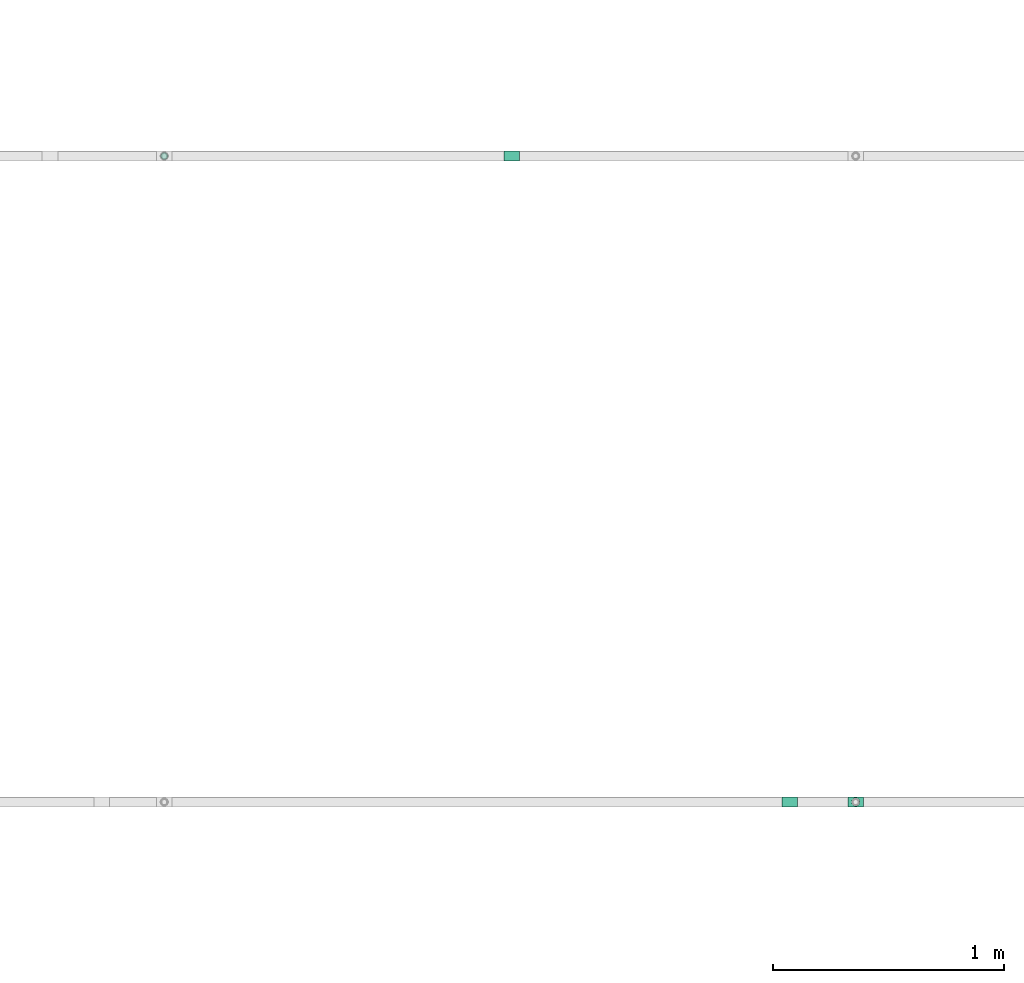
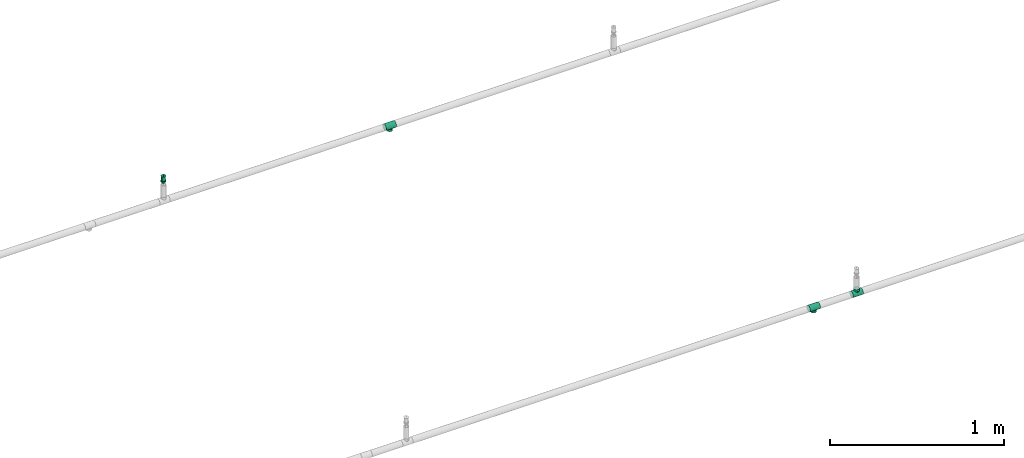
# One storey, part 61 of 94: 3 flow fittings, 1 flow terminal.
"""IFC2X3 building model written with IfcOpenShell, lengths in millimetres."""

from ifc_helpers import new_model, entity, si_unit, converted_unit, derived_unit, direction, frame, origin_with_axes, place, context, subcontext, project, spatial, open_shell, surface_model, source, transform, mapped, type_object, element, save


model = new_model("IFC2X3")

# Units and contexts
model_context = context("Model", 3, precision=0.01, world=frame((0.0, 4.29681676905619e-09, 0.0)), true_north=direction((4.01073788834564e-13, 1.0)))
plan_context = context("Plan", 3, precision=0.01, world=frame((0.0, 4.29681676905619e-09, 0.0)), true_north=direction((4.01073788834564e-13, 1.0)))
body_context = subcontext(model_context, "Body", "Model", "MODEL_VIEW")
ifc_project = project(units=[converted_unit("PLANEANGLEUNIT", "DEGREE", entity("IfcPositiveLengthMeasure", 0.0174532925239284), si_unit("PLANEANGLEUNIT", "RADIAN"), dimensions=[0, 0, 0, 0, 0, 0, 0]), si_unit("AREAUNIT", "SQUARE_METRE"), si_unit("LENGTHUNIT", "METRE", prefix="MILLI"), si_unit("MASSUNIT", "GRAM", prefix="KILO"), si_unit("POWERUNIT", "WATT"), si_unit("PRESSUREUNIT", "PASCAL"), si_unit("FORCEUNIT", "NEWTON", prefix="KILO"), si_unit("ELECTRICCURRENTUNIT", "AMPERE"), si_unit("THERMODYNAMICTEMPERATUREUNIT", "DEGREE_CELSIUS"), si_unit("TIMEUNIT", "SECOND"), si_unit("VOLUMEUNIT", "CUBIC_METRE"), derived_unit("LINEARVELOCITYUNIT", [(si_unit("LENGTHUNIT", "METRE"), 1), (si_unit("TIMEUNIT", "SECOND"), -1)]), derived_unit("VOLUMETRICFLOWRATEUNIT", [(si_unit("VOLUMEUNIT", "CUBIC_METRE"), 1), (si_unit("TIMEUNIT", "SECOND"), -1)]), derived_unit("THERMALTRANSMITTANCEUNIT", [(si_unit("POWERUNIT", "WATT"), 1), (si_unit("THERMODYNAMICTEMPERATUREUNIT", "KELVIN"), -1), (si_unit("AREAUNIT", "SQUARE_METRE"), -1)])], contexts=[model_context, plan_context])

# Site, building, storey
site_placement = place(None, frame((0.0, -4.29681676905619e-09, 0.0), z_axis=(0.0, 0.0, 1.0), x_axis=(1.0, 0.0, 0.0)))
site = spatial("IfcSite", under=ifc_project, at=site_placement, CompositionType="ELEMENT")
building_placement = place(site_placement, frame((0.0, 4.29681676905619e-09, 0.0), z_axis=(0.0, 0.0, 1.0), x_axis=(1.0, 0.0, 0.0)))
building = spatial("IfcBuilding", under=site, at=building_placement, Name="mc-building", CompositionType="ELEMENT")
storey_placement = place(building_placement, frame((0.0, 0.0, 200300.0), z_axis=(0.0, 0.0, 1.0), x_axis=(1.0, 0.0, 0.0)))
storey = spatial("IfcBuildingStorey", under=building, at=storey_placement, Name="Nivå C", CompositionType="ELEMENT", Elevation=200300.0)

# Flow fittings
pipe_fitting_type = type_object("IfcPipeFittingType", Name="magi_pipe_fe_tee_centric_90_NOR", PredefinedType="JUNCTION")
shared_shape_1 = source(origin_with_axes(), body_context, "Body", "SurfaceModel", [
    surface_model("IfcShellBasedSurfaceModel", [(-33.8, 0.0, -21.2), (-33.8, -5.48696, -20.47763), (-33.8, 5.48696, -20.47763), (-33.8, 10.6, -18.35974), (-33.8, 14.99066, -14.99066), (-33.8, -20.47763, 5.48696), (-33.8, 18.35974, -10.6), (-33.8, 10.6, 18.35974), (-33.8, -14.99066, -14.99066), (-33.8, -18.35974, -10.6), (-33.8, -10.6, -18.35974), (-33.8, -20.47763, -5.48696), (-33.8, -21.2, 0.0), (-33.8, 18.35974, 10.6), (-33.8, 20.47763, -5.48696), (-33.8, 20.47763, 5.48696), (-33.8, 21.2, 0.0), (-33.8, 14.99066, 14.99066), (-33.8, 5.48696, 20.47763), (-33.8, 0.0, 21.2), (-33.8, -18.35974, 10.6), (-33.8, -14.99066, 14.99066), (-33.8, -10.6, 18.35974), (-33.8, -5.48696, 20.47763), (33.8, 5.48696, -20.47763), (33.8, -5.48696, -20.47763), (33.8, 0.0, -21.2), (33.8, 14.99066, -14.99066), (33.8, 10.6, -18.35974), (33.8, 18.35974, -10.6), (33.8, 20.47763, -5.48696), (33.8, -21.2, 0.0), (33.8, -10.6, -18.35974), (33.8, -18.35974, -10.6), (33.8, -14.99066, -14.99066), (33.8, -20.47763, -5.48696), (33.8, -20.47763, 5.48696), (33.8, 21.2, 0.0), (33.8, 20.47763, 5.48696), (33.8, 18.35974, 10.6), (33.8, 10.6, 18.35974), (33.8, 14.99066, 14.99066), (33.8, 0.0, 21.2), (33.8, 5.48696, 20.47763), (33.8, -14.99066, 14.99066), (33.8, -18.35974, 10.6), (33.8, -10.6, 18.35974), (33.8, -5.48696, 20.47763), (16.9, -21.2, 0.0), (15.78624, -20.32327, 6.03364), (12.81343, -18.11115, 11.01935), (8.52479, -15.37862, 14.59239), (3.07939, -13.16482, 16.61708), (-16.9, -21.2, 0.0), (-15.78686, -20.32375, 6.032), (-8.52604, -15.37932, 14.59166), (-3.0848, -13.16609, 16.61608), (-12.81602, -18.11299, 11.01634), (3.07939, -13.16482, -16.61708), (12.81343, -18.11115, -11.01935), (8.52479, -15.37862, -14.59239), (15.78624, -20.32327, -6.03364), (-3.0848, -13.16609, -16.61608), (-8.52604, -15.37932, -14.59166), (-12.81602, -18.11299, -11.01634), (-15.78686, -20.32375, -6.032), (4.37404, -31.8, -16.32415), (-16.9, -31.8, 0.0), (0.0, -31.8, -16.9), (14.63583, -31.8, -8.45), (8.45, -31.8, -14.63583), (16.32415, -31.8, -4.37404), (11.9501, -31.8, -11.9501), (-11.9501, -31.8, -11.9501), (-8.45, -31.8, -14.63583), (-4.37404, -31.8, -16.32415), (-14.63583, -31.8, -8.45), (-16.32415, -31.8, -4.37404), (16.9, -31.8, 0.0), (8.45, -31.8, 14.63583), (16.32415, -31.8, 4.37404), (14.63583, -31.8, 8.45), (-8.45, -31.8, 14.63583), (11.9501, -31.8, 11.9501), (4.37404, -31.8, 16.32415), (-16.32415, -31.8, 4.37404), (-11.9501, -31.8, 11.9501), (-14.63583, -31.8, 8.45), (0.0, -31.8, 16.9), (-4.37404, -31.8, 16.32415), (-16.34343, -20.76188, 3.016), (16.34312, -20.76163, 3.01682), (-0.00271, -13.16546, 16.61658), (16.34312, -20.76163, -3.01682), (-0.00271, -13.16546, -16.61658), (-16.34343, -20.76188, -3.016)], [open_shell([[[0, 1, 2]], [[3, 2, 4]], [[5, 2, 1]], [[4, 2, 6]], [[6, 2, 7]], [[8, 9, 10]], [[1, 10, 9]], [[9, 11, 1]], [[12, 1, 11]], [[5, 1, 12]], [[13, 14, 6]], [[13, 15, 16]], [[6, 7, 13]], [[5, 7, 2]], [[17, 13, 7]], [[18, 7, 19]], [[20, 21, 5]], [[22, 5, 21]], [[23, 19, 22]], [[7, 5, 22]], [[22, 19, 7]], [[16, 14, 13]], [[24, 25, 26]], [[27, 24, 28]], [[29, 30, 24]], [[29, 24, 27]], [[31, 24, 30]], [[32, 33, 34]], [[33, 32, 25]], [[33, 31, 35]], [[31, 33, 25]], [[25, 24, 31]], [[30, 36, 31]], [[37, 38, 39]], [[37, 39, 40]], [[37, 40, 36]], [[40, 39, 41]], [[42, 40, 43]], [[36, 44, 45]], [[44, 36, 46]], [[46, 42, 47]], [[46, 36, 40]], [[40, 42, 46]], [[37, 36, 30]], [[31, 36, 48]], [[49, 48, 36]], [[36, 45, 49]], [[45, 44, 50]], [[51, 50, 44]], [[52, 51, 44]], [[44, 46, 52]], [[45, 50, 49]], [[53, 54, 5]], [[5, 12, 53]], [[54, 20, 5]], [[55, 56, 21]], [[20, 57, 21]], [[57, 20, 54]], [[21, 57, 55]], [[56, 22, 21]], [[52, 22, 56]], [[19, 47, 42]], [[23, 46, 47]], [[18, 42, 43]], [[39, 38, 15]], [[17, 40, 41]], [[13, 41, 39]], [[43, 40, 7]], [[16, 38, 37]], [[22, 46, 23]], [[23, 47, 19]], [[18, 19, 42]], [[43, 7, 18]], [[7, 40, 17]], [[13, 17, 41]], [[15, 13, 39]], [[38, 16, 15]], [[46, 22, 52]], [[6, 30, 29]], [[14, 37, 30]], [[4, 29, 27]], [[26, 25, 1]], [[2, 28, 24]], [[0, 24, 26]], [[27, 28, 3]], [[10, 25, 32]], [[16, 37, 14]], [[14, 30, 6]], [[4, 6, 29]], [[27, 3, 4]], [[3, 28, 2]], [[0, 2, 24]], [[1, 0, 26]], [[25, 10, 1]], [[32, 58, 10]], [[34, 59, 60]], [[59, 34, 33]], [[60, 58, 34]], [[34, 58, 32]], [[35, 31, 48]], [[35, 61, 33]], [[61, 35, 48]], [[33, 61, 59]], [[62, 63, 8]], [[8, 64, 9]], [[64, 8, 63]], [[62, 8, 10]], [[65, 53, 11]], [[65, 11, 9]], [[11, 53, 12]], [[65, 9, 64]], [[58, 62, 10]], [[66, 67, 68]], [[69, 66, 70]], [[69, 71, 66]], [[69, 70, 72]], [[67, 66, 71]], [[68, 73, 74]], [[74, 75, 68]], [[76, 67, 77]], [[73, 68, 76]], [[67, 76, 68]], [[71, 78, 67]], [[79, 78, 80]], [[79, 80, 81]], [[82, 67, 79]], [[79, 81, 83]], [[82, 79, 84]], [[85, 86, 87]], [[86, 85, 82]], [[82, 88, 89]], [[85, 67, 82]], [[84, 88, 82]], [[79, 67, 78]], [[85, 90, 67]], [[57, 87, 86]], [[85, 87, 54]], [[86, 82, 55]], [[85, 54, 90]], [[90, 53, 67]], [[54, 87, 57]], [[91, 49, 80]], [[55, 89, 56]], [[55, 57, 86]], [[88, 52, 92]], [[55, 82, 89]], [[52, 88, 84]], [[79, 51, 84]], [[50, 83, 81]], [[83, 51, 79]], [[81, 80, 49]], [[83, 50, 51]], [[51, 52, 84]], [[78, 91, 80]], [[49, 50, 81]], [[91, 78, 48]], [[88, 56, 89]], [[92, 56, 88]], [[71, 93, 78]], [[59, 69, 72]], [[71, 69, 61]], [[72, 70, 60]], [[93, 48, 78]], [[61, 69, 59]], [[60, 66, 58]], [[60, 59, 72]], [[68, 62, 94]], [[60, 70, 66]], [[95, 67, 53]], [[95, 65, 77]], [[71, 61, 93]], [[75, 62, 68]], [[65, 76, 77]], [[73, 76, 64]], [[68, 58, 66]], [[75, 63, 62]], [[63, 75, 74]], [[74, 73, 63]], [[63, 73, 64]], [[64, 76, 65]], [[67, 95, 77]], [[94, 58, 68]]])]),
])
for number, where, z_axis, x_axis, name in (
    (1, (526007.26147, 416298.62756, 2850.0), (0.0, 1.0, 0.0), (-1.0, 0.0, 0.0), "magi_pipe_fe_tee_centric_90_NOR"),
    (2, (527497.26879, 413500.1625, 2850.0), (0.0, -1.0, 0.0), (-1.0, 0.0, 0.0), "magi_pipe_fe_tee_centric_90_NOR"),
    (3, (527211.48953, 413500.1625, 2850.0), (0.0, 1.0, 0.0), (-1.0, 0.0, 0.0), "magi_pipe_fe_tee_centric_90_NOR"),
):
    element("IfcFlowFitting", number, at=place(storey_placement, frame(where, z_axis=z_axis, x_axis=x_axis)), inside=storey, type_object=pipe_fitting_type, Name=name, context=body_context, shape_type="MappedRepresentation", body=[
        mapped(shared_shape_1, transform((0.0, 0.0, 0.0), scale=1.0)),
    ])

# Flow terminal
fire_suppression_terminal_type = type_object("IfcFireSuppressionTerminalType", Name="68DGR-STD-STÅENDE", PredefinedType="NOTDEFINED")
shared_shape_2 = source(origin_with_axes(), body_context, "Body", "SurfaceModel", [
    surface_model("IfcShellBasedSurfaceModel", [(12.55704, 3.36465, 21.14766), (13.0, 0.0, 21.14766), (12.55704, -3.36465, 21.14766), (-12.55704, -3.36465, 21.14766), (-11.25833, -6.5, 21.14766), (-11.25833, -6.5, 51.0), (3.36465, -12.55704, 51.0), (3.36465, -12.55704, 21.14766), (6.5, -11.25833, 21.14766), (9.19239, -9.19239, 21.14766), (11.25833, -6.5, 21.14766), (9.19239, -9.19239, 51.0), (6.5, -11.25833, 51.0), (11.25833, -6.5, 51.0), (12.55704, -3.36465, 51.0), (13.0, 0.0, 51.0), (9.19239, 9.19239, 51.0), (11.25833, 6.5, 21.14766), (9.19239, 9.19239, 21.14766), (11.25833, 6.5, 51.0), (12.55704, 3.36465, 51.0), (6.5, 11.25833, 51.0), (6.5, 11.25833, 21.14766), (3.36465, 12.55704, 21.14766), (3.36465, 12.55704, 51.0), (-11.25833, 6.5, 51.0), (-11.25833, 6.5, 21.14766), (-12.55704, 3.36465, 21.14766), (0.0, -2.5, 51.0), (-2.5, 0.0, 51.0), (0.0, 2.5, 51.0), (2.5, 0.0, 51.0), (11.31371, 11.31371, 53.0), (-11.31371, 11.31371, 53.0), (-11.31371, -11.31371, 53.0), (11.31371, -11.31371, 53.0), (1.62635, 1.62635, 51.0), (2.16506, 1.25, 51.0), (1.99186, 1.15, 51.0), (-1.76777, 1.76777, 51.0), (-1.25, 2.16506, 51.0), (-1.62635, 1.62635, 51.0), (1.99186, -1.15, 51.0), (2.16506, -1.25, 51.0), (1.62635, -1.62635, 51.0), (-1.62635, -1.62635, 51.0), (-1.25, -2.16506, 51.0), (-1.76777, -1.76777, 51.0), (0.0, 7.3, 0.0), (1.94114, 7.24444, 0.0), (1.88938, 7.05126, 0.0), (5.16188, 5.16188, 0.0), (6.49519, 3.75, 0.0), (6.32199, 3.65, 0.0), (-5.3033, 5.3033, 0.0), (-3.75, 6.49519, 0.0), (-5.16188, 5.16188, 0.0), (6.32199, -3.65, 0.0), (6.49519, -3.75, 0.0), (5.16188, -5.16188, 0.0), (1.88938, -7.05126, 0.0), (1.94114, -7.24444, 0.0), (0.0, -7.3, 0.0), (-5.16188, -5.16188, 0.0), (-3.75, -6.49519, 0.0), (-5.3033, -5.3033, 0.0), (-3.36465, 12.55704, 51.0), (-6.5, 11.25833, 51.0), (0.0, 13.0, 51.0), (-9.19239, 9.19239, 51.0), (0.0, -13.0, 51.0), (-9.19239, -9.19239, 51.0), (-12.55704, -3.36465, 51.0), (-6.5, -11.25833, 51.0), (-3.36465, -12.55704, 51.0), (-7.5, 0.0, -0.1), (-7.24444, 1.94114, 0.1), (-7.24444, 1.94114, -0.1), (-6.49519, 3.75, 0.1), (-6.49519, 3.75, -0.1), (-3.75, 6.49519, -0.1), (-5.3033, 5.3033, -0.1), (-3.75, 6.49519, 0.1), (-5.3033, 5.3033, 0.1), (-1.94114, 7.24444, -0.1), (-1.94114, 7.24444, 0.1), (-7.5, 0.0, 0.1), (0.0, 7.5, 0.1), (0.0, 7.5, -0.1), (1.94114, 7.24444, 0.1), (1.94114, 7.24444, -0.1), (3.75, 6.49519, 0.1), (3.75, 6.49519, -0.1), (6.49519, 3.75, -0.1), (5.3033, 5.3033, -0.1), (6.49519, 3.75, 0.1), (5.3033, 5.3033, 0.1), (7.24444, 1.94114, -0.1), (7.24444, 1.94114, 0.1), (7.5, 0.0, 0.1), (7.5, 0.0, -0.1), (-7.24444, -1.94114, 0.1), (7.24444, -1.94114, 0.1), (5.3033, -5.3033, 0.1), (6.49519, -3.75, 0.1), (-6.49519, -3.75, 0.1), (0.0, -7.5, 0.1), (1.94114, -7.24444, 0.1), (3.75, -6.49519, 0.1), (-3.75, -6.49519, 0.1), (-1.94114, -7.24444, 0.1), (-5.3033, -5.3033, 0.1), (0.0, -7.5, -0.1), (-6.49519, -3.75, -0.1), (1.94114, -7.24444, -0.1), (3.75, -6.49519, -0.1), (5.3033, -5.3033, -0.1), (7.24444, -1.94114, -0.1), (6.49519, -3.75, -0.1), (-3.75, -6.49519, -0.1), (-5.3033, -5.3033, -0.1), (-1.94114, -7.24444, -0.1), (-7.24444, -1.94114, -0.1), (16.0, 0.0, 53.0), (0.0, -16.0, 53.0), (-16.0, 0.0, 53.0), (0.0, 16.0, 53.0), (0.64705, 2.41481, 57.0), (0.0, 2.5, 57.0), (1.25, 2.16506, 57.0), (-2.5, 0.0, 57.0), (1.76777, 1.76777, 57.0), (2.41481, 0.64705, 57.0), (2.16506, 1.25, 57.0), (-0.64705, 2.41481, 57.0), (-1.25, 2.16506, 57.0), (-1.76777, 1.76777, 57.0), (-2.16506, 1.25, 57.0), (-2.41481, 0.64705, 57.0), (2.5, 0.0, 57.0), (1.76777, -1.76777, 57.0), (2.16506, -1.25, 57.0), (2.41481, -0.64705, 57.0), (-2.41481, -0.64705, 57.0), (0.64705, -2.41481, 57.0), (1.25, -2.16506, 57.0), (0.0, -2.5, 57.0), (-1.76777, -1.76777, 57.0), (-2.16506, -1.25, 57.0), (-1.25, -2.16506, 57.0), (-0.64705, -2.41481, 57.0), (1.15, -1.99186, 51.0), (1.76777, -1.76777, 51.0), (1.25, -2.16506, 51.0), (0.59528, -2.22163, 51.0), (0.0, -2.3, 51.0), (0.64705, -2.41481, 51.0), (2.22163, -0.59528, 51.0), (2.3, 0.0, 51.0), (2.41481, -0.64705, 51.0), (-0.64705, -2.41481, 51.0), (-0.59528, -2.22163, 51.0), (-1.15, -1.99186, 51.0), (-2.16506, -1.25, 51.0), (-1.99186, -1.15, 51.0), (-2.22163, -0.59528, 51.0), (-2.3, 0.0, 51.0), (-2.41481, -0.64705, 51.0), (2.22163, 0.59528, 51.0), (2.41481, 0.64705, 51.0), (1.76777, 1.76777, 51.0), (1.15, 1.99186, 51.0), (1.25, 2.16506, 51.0), (0.59528, 2.22163, 51.0), (0.0, 2.3, 51.0), (0.64705, 2.41481, 51.0), (-1.99186, 1.15, 51.0), (-2.16506, 1.25, 51.0), (-2.41481, 0.64705, 51.0), (-2.22163, 0.59528, 51.0), (-0.64705, 2.41481, 51.0), (-0.59528, 2.22163, 51.0), (-1.15, 1.99186, 51.0), (-2.22163, 0.59528, 56.8), (-1.99186, 1.15, 56.8), (-1.15, 1.99186, 56.8), (-1.62635, 1.62635, 56.8), (-0.59528, 2.22163, 56.8), (-2.3, 0.0, 56.8), (0.0, 2.3, 56.8), (0.59528, 2.22163, 56.8), (1.15, 1.99186, 56.8), (1.99186, 1.15, 56.8), (1.62635, 1.62635, 56.8), (2.22163, 0.59528, 56.8), (2.3, 0.0, 56.8), (2.22163, -0.59528, 56.8), (1.99186, -1.15, 56.8), (1.62635, -1.62635, 56.8), (1.15, -1.99186, 56.8), (0.59528, -2.22163, 56.8), (0.0, -2.3, 56.8), (-1.99186, -1.15, 56.8), (-2.22163, -0.59528, 56.8), (-1.62635, -1.62635, 56.8), (-0.59528, -2.22163, 56.8), (-1.15, -1.99186, 56.8), (8.0, -13.85641, 13.0), (4.1411, -15.45481, 13.0), (0.0, -16.0, 13.0), (-4.1411, -15.45481, 13.0), (15.45481, -4.1411, 13.0), (13.85641, -8.0, 13.0), (11.31371, -11.31371, 13.0), (-16.0, 0.0, 13.0), (-8.0, -13.85641, 13.0), (-11.31371, -11.31371, 13.0), (-13.85641, -8.0, 13.0), (-15.45481, -4.1411, 13.0), (15.45481, 4.1411, 13.0), (4.1411, 15.45481, 13.0), (13.85641, 8.0, 13.0), (8.0, 13.85641, 13.0), (11.31371, 11.31371, 13.0), (-15.45481, 4.1411, 13.0), (-11.31371, 11.31371, 13.0), (-8.0, 13.85641, 13.0), (-13.85641, 8.0, 13.0), (-4.1411, 15.45481, 13.0), (0.0, 16.0, 13.0), (16.0, 0.0, 13.0), (7.05126, 1.88938, 12.8), (1.88938, 7.05126, 12.8), (3.65, 6.32199, 12.8), (6.32199, 3.65, 12.8), (5.16188, 5.16188, 12.8), (7.3, 0.0, 12.8), (0.0, 7.3, 12.8), (-3.65, 6.32199, 12.8), (-1.88938, 7.05126, 12.8), (-5.16188, 5.16188, 12.8), (-7.05126, 1.88938, 12.8), (-6.32199, 3.65, 12.8), (7.05126, -1.88938, 12.8), (0.0, -7.3, 12.8), (6.32199, -3.65, 12.8), (3.65, -6.32199, 12.8), (5.16188, -5.16188, 12.8), (1.88938, -7.05126, 12.8), (-7.3, 0.0, 12.8), (-6.32199, -3.65, 12.8), (-7.05126, -1.88938, 12.8), (-1.88938, -7.05126, 12.8), (-5.16188, -5.16188, 12.8), (-3.65, -6.32199, 12.8), (-7.05126, 1.88938, 0.0), (-7.3, 0.0, 0.0), (-6.32199, 3.65, 0.0), (-3.65, 6.32199, 0.0), (-1.88938, 7.05126, 0.0), (3.65, 6.32199, 0.0), (7.05126, 1.88938, 0.0), (7.3, 0.0, 0.0), (3.75, 6.49519, 13.0), (1.94114, 7.24444, 13.0), (7.5, 0.0, 13.0), (5.3033, 5.3033, 13.0), (7.24444, 1.94114, 13.0), (6.49519, 3.75, 13.0), (-5.3033, 5.3033, 13.0), (-7.24444, -1.94114, 13.0), (-1.94114, 7.24444, 13.0), (-3.75, 6.49519, 13.0), (0.0, 7.5, 13.0), (-6.49519, 3.75, 13.0), (-7.24444, 1.94114, 13.0), (7.24444, -1.94114, 13.0), (5.3033, -5.3033, 13.0), (6.49519, -3.75, 13.0), (-6.49519, -3.75, 13.0), (0.0, -7.5, 13.0), (1.94114, -7.24444, 13.0), (3.75, -6.49519, 13.0), (-7.5, 0.0, 13.0), (-3.75, -6.49519, 13.0), (-1.94114, -7.24444, 13.0), (-5.3033, -5.3033, 13.0), (3.65, -6.32199, 0.0), (5.3033, -5.3033, 0.0), (3.75, -6.49519, 0.0), (0.0, -7.5, 0.0), (7.05126, -1.88938, 0.0), (7.24444, -1.94114, 0.0), (7.5, 0.0, 0.0), (-1.94114, -7.24444, 0.0), (-1.88938, -7.05126, 0.0), (-3.65, -6.32199, 0.0), (-6.49519, -3.75, 0.0), (-6.32199, -3.65, 0.0), (-7.05126, -1.88938, 0.0), (-7.24444, -1.94114, 0.0), (-7.5, 0.0, 0.0), (7.24444, 1.94114, 0.0), (5.3033, 5.3033, 0.0), (3.75, 6.49519, 0.0), (0.0, 7.5, 0.0), (-6.49519, 3.75, 0.0), (-7.24444, 1.94114, 0.0), (-1.94114, 7.24444, 0.0), (-12.55704, 3.36465, 51.0), (-13.0, 0.0, 51.0), (0.0, -13.0, 21.14766), (-3.36465, -12.55704, 21.14766), (-6.5, -11.25833, 21.14766), (-9.19239, -9.19239, 21.14766), (-13.0, 0.0, 21.14766), (-9.19239, 9.19239, 21.14766), (-6.5, 11.25833, 21.14766), (-3.36465, 12.55704, 21.14766), (0.0, 13.0, 21.14766), (11.31371, 11.31371, 19.0), (8.0, 13.85641, 19.0), (4.1411, 15.45481, 19.0), (-8.0, 13.85641, 19.0), (16.0, 0.0, 19.0), (15.45481, 4.1411, 19.0), (13.85641, 8.0, 19.0), (-4.1411, 15.45481, 19.0), (0.0, 16.0, 19.0), (-11.31371, 11.31371, 19.0), (-13.85641, 8.0, 19.0), (-15.45481, 4.1411, 19.0), (15.45481, -4.1411, 19.0), (11.31371, -11.31371, 19.0), (13.85641, -8.0, 19.0), (-16.0, 0.0, 19.0), (0.0, -16.0, 19.0), (4.1411, -15.45481, 19.0), (8.0, -13.85641, 19.0), (-13.85641, -8.0, 19.0), (-11.31371, -11.31371, 19.0), (-15.45481, -4.1411, 19.0), (-8.0, -13.85641, 19.0), (-4.1411, -15.45481, 19.0)], [open_shell([[[0, 1, 2]], [[3, 4, 5]], [[6, 7, 8]], [[9, 10, 11]], [[9, 11, 12]], [[10, 13, 11]], [[14, 13, 2]], [[1, 15, 14]], [[16, 17, 18]], [[0, 19, 20]], [[20, 15, 1]], [[21, 16, 18]], [[22, 23, 24]], [[16, 19, 17]], [[25, 26, 27]], [[28, 29, 30]], [[30, 31, 28]], [[31, 30, 32]], [[33, 30, 29]], [[29, 28, 34]], [[35, 28, 31]], [[36, 37, 38]], [[39, 40, 41]], [[42, 43, 44]], [[45, 46, 47]], [[48, 49, 50]], [[51, 52, 53]], [[54, 55, 56]], [[57, 58, 59]], [[60, 61, 62]], [[63, 64, 65]], [[66, 67, 68]], [[67, 24, 68]], [[69, 25, 67]], [[15, 20, 14]], [[70, 6, 12]], [[5, 71, 72]], [[73, 74, 71]], [[72, 71, 74]], [[75, 76, 77]], [[77, 78, 79]], [[80, 81, 82]], [[83, 81, 79]], [[84, 80, 85]], [[76, 78, 77]], [[75, 86, 76]], [[80, 82, 85]], [[82, 81, 83]], [[79, 78, 83]], [[84, 85, 87]], [[87, 88, 84]], [[88, 89, 90]], [[90, 91, 92]], [[93, 94, 95]], [[96, 94, 92]], [[97, 93, 98]], [[91, 96, 92]], [[90, 89, 91]], [[97, 98, 99]], [[98, 93, 95]], [[94, 96, 95]], [[97, 99, 100]], [[87, 89, 88]], [[91, 89, 99]], [[96, 91, 98]], [[91, 99, 98]], [[95, 96, 98]], [[89, 83, 101]], [[85, 82, 87]], [[83, 87, 82]], [[78, 76, 83]], [[89, 87, 83]], [[76, 101, 83]], [[102, 99, 89]], [[103, 104, 102]], [[89, 105, 103]], [[103, 106, 107]], [[108, 103, 107]], [[106, 103, 105]], [[89, 101, 105]], [[101, 76, 86]], [[109, 110, 111]], [[105, 111, 110]], [[106, 105, 110]], [[103, 102, 89]], [[112, 113, 114]], [[115, 114, 116]], [[117, 118, 116]], [[113, 116, 114]], [[116, 113, 117]], [[119, 120, 121]], [[113, 121, 120]], [[121, 113, 112]], [[113, 122, 117]], [[75, 77, 122]], [[100, 117, 122]], [[100, 81, 97]], [[93, 97, 90]], [[90, 92, 94]], [[93, 90, 94]], [[90, 97, 81]], [[79, 81, 77]], [[77, 81, 122]], [[84, 88, 80]], [[81, 80, 88]], [[81, 88, 90]], [[100, 122, 81]], [[100, 102, 117]], [[117, 104, 118]], [[115, 116, 108]], [[103, 116, 118]], [[114, 115, 107]], [[102, 104, 117]], [[100, 99, 102]], [[115, 108, 107]], [[108, 116, 103]], [[118, 104, 103]], [[114, 107, 106]], [[106, 112, 114]], [[112, 110, 121]], [[121, 109, 119]], [[113, 120, 105]], [[111, 120, 119]], [[122, 113, 101]], [[109, 111, 119]], [[121, 110, 109]], [[122, 101, 86]], [[101, 113, 105]], [[120, 111, 105]], [[122, 86, 75]], [[106, 110, 112]], [[31, 123, 35]], [[35, 124, 28]], [[124, 34, 28]], [[29, 34, 125]], [[33, 32, 126]], [[33, 125, 124]], [[124, 32, 33]], [[124, 35, 123]], [[124, 125, 34]], [[123, 32, 124]], [[29, 125, 33]], [[33, 126, 30]], [[126, 32, 30]], [[31, 32, 123]], [[127, 128, 129]], [[129, 130, 131]], [[132, 131, 130]], [[133, 131, 132]], [[130, 129, 128]], [[134, 135, 128]], [[136, 128, 135]], [[137, 138, 136]], [[128, 136, 130]], [[138, 130, 136]], [[139, 132, 130]], [[140, 141, 142]], [[143, 140, 139]], [[144, 140, 143]], [[145, 140, 144]], [[146, 144, 147]], [[139, 130, 143]], [[143, 148, 144]], [[149, 150, 147]], [[144, 148, 147]], [[146, 147, 150]], [[140, 142, 139]], [[151, 152, 153]], [[154, 151, 153]], [[155, 154, 156]], [[153, 156, 154]], [[28, 155, 156]], [[44, 152, 151]], [[157, 158, 159]], [[31, 159, 158]], [[43, 157, 159]], [[152, 44, 43]], [[157, 43, 42]], [[160, 161, 28]], [[161, 155, 28]], [[162, 161, 160]], [[160, 46, 162]], [[162, 46, 45]], [[47, 163, 164]], [[165, 164, 163]], [[45, 47, 164]], [[166, 165, 167]], [[163, 167, 165]], [[29, 166, 167]], [[168, 169, 31]], [[38, 169, 168]], [[169, 38, 37]], [[170, 37, 36]], [[171, 172, 170]], [[173, 172, 171]], [[174, 175, 173]], [[172, 173, 175]], [[30, 175, 174]], [[170, 36, 171]], [[39, 176, 177]], [[41, 176, 39]], [[178, 177, 176]], [[178, 179, 29]], [[176, 179, 178]], [[179, 166, 29]], [[180, 30, 181]], [[182, 180, 181]], [[182, 41, 40]], [[180, 182, 40]], [[181, 30, 174]], [[31, 158, 168]], [[29, 138, 178]], [[178, 137, 177]], [[40, 39, 135]], [[136, 39, 177]], [[180, 40, 134]], [[138, 137, 178]], [[29, 130, 138]], [[40, 135, 134]], [[135, 39, 136]], [[177, 137, 136]], [[180, 134, 128]], [[128, 30, 180]], [[30, 127, 175]], [[175, 129, 172]], [[37, 170, 133]], [[131, 170, 172]], [[169, 37, 132]], [[129, 131, 172]], [[175, 127, 129]], [[169, 132, 139]], [[132, 37, 133]], [[170, 131, 133]], [[169, 139, 31]], [[128, 127, 30]], [[179, 183, 166]], [[176, 184, 179]], [[185, 41, 182]], [[176, 41, 186]], [[187, 182, 181]], [[179, 184, 183]], [[183, 188, 166]], [[187, 185, 182]], [[186, 41, 185]], [[186, 184, 176]], [[189, 187, 181]], [[181, 174, 189]], [[173, 190, 174]], [[171, 191, 173]], [[192, 36, 38]], [[171, 36, 193]], [[194, 38, 168]], [[171, 193, 191]], [[191, 190, 173]], [[195, 194, 168]], [[192, 38, 194]], [[192, 193, 36]], [[158, 195, 168]], [[174, 190, 189]], [[31, 142, 159]], [[159, 141, 43]], [[153, 152, 145]], [[140, 152, 43]], [[156, 153, 144]], [[142, 141, 159]], [[31, 139, 142]], [[153, 145, 144]], [[145, 152, 140]], [[43, 141, 140]], [[156, 144, 146]], [[146, 28, 156]], [[28, 150, 160]], [[160, 149, 46]], [[163, 47, 148]], [[147, 47, 46]], [[167, 163, 143]], [[149, 147, 46]], [[160, 150, 149]], [[167, 143, 130]], [[143, 163, 148]], [[47, 147, 148]], [[167, 130, 29]], [[146, 150, 28]], [[190, 191, 193]], [[190, 193, 195]], [[194, 195, 193]], [[194, 193, 192]], [[190, 195, 186]], [[189, 185, 187]], [[185, 189, 186]], [[186, 183, 184]], [[186, 189, 190]], [[186, 196, 183]], [[186, 195, 196]], [[196, 197, 198]], [[196, 198, 199]], [[199, 200, 201]], [[199, 201, 196]], [[196, 201, 202]], [[188, 202, 203]], [[183, 202, 188]], [[204, 205, 206]], [[205, 204, 202]], [[201, 205, 202]], [[202, 183, 196]], [[157, 196, 158]], [[42, 197, 157]], [[199, 44, 151]], [[42, 44, 198]], [[200, 151, 154]], [[157, 197, 196]], [[196, 195, 158]], [[200, 199, 151]], [[198, 44, 199]], [[198, 197, 42]], [[201, 200, 154]], [[154, 155, 201]], [[161, 205, 155]], [[162, 206, 161]], [[202, 45, 164]], [[162, 45, 204]], [[203, 164, 165]], [[162, 204, 206]], [[206, 205, 161]], [[188, 203, 165]], [[202, 164, 203]], [[202, 204, 45]], [[166, 188, 165]], [[155, 205, 201]], [[207, 208, 209]], [[207, 209, 210]], [[211, 212, 213]], [[213, 207, 214]], [[211, 213, 214]], [[215, 216, 210]], [[217, 210, 216]], [[217, 218, 210]], [[218, 207, 210]], [[218, 214, 207]], [[214, 219, 211]], [[220, 219, 214]], [[221, 219, 220]], [[220, 222, 223]], [[221, 220, 223]], [[214, 224, 220]], [[225, 226, 227]], [[224, 227, 226]], [[228, 229, 226]], [[220, 224, 226]], [[226, 229, 220]], [[219, 230, 211]], [[231, 232, 233]], [[234, 233, 235]], [[231, 236, 232]], [[231, 233, 234]], [[232, 236, 237]], [[237, 238, 239]], [[238, 237, 240]], [[240, 241, 242]], [[240, 237, 236]], [[236, 241, 240]], [[236, 243, 241]], [[244, 243, 245]], [[246, 245, 247]], [[246, 248, 244]], [[246, 244, 245]], [[243, 244, 249]], [[249, 250, 251]], [[250, 249, 252]], [[253, 252, 254]], [[252, 253, 250]], [[249, 244, 252]], [[243, 249, 241]], [[255, 241, 256]], [[257, 242, 255]], [[238, 56, 258]], [[257, 56, 240]], [[239, 258, 259]], [[255, 242, 241]], [[241, 249, 256]], [[239, 238, 258]], [[240, 56, 238]], [[240, 242, 257]], [[237, 239, 259]], [[259, 48, 237]], [[50, 232, 48]], [[260, 233, 50]], [[234, 51, 53]], [[260, 51, 235]], [[231, 53, 261]], [[260, 235, 233]], [[233, 232, 50]], [[236, 231, 261]], [[234, 53, 231]], [[234, 235, 51]], [[262, 236, 261]], [[48, 232, 237]], [[263, 264, 265]], [[266, 263, 267]], [[263, 265, 267]], [[268, 266, 267]], [[264, 269, 270]], [[271, 272, 273]], [[269, 273, 272]], [[274, 275, 269]], [[264, 273, 269]], [[275, 270, 269]], [[276, 265, 264]], [[277, 278, 276]], [[264, 279, 277]], [[277, 280, 281]], [[282, 277, 281]], [[280, 277, 279]], [[264, 270, 279]], [[270, 275, 283]], [[284, 285, 286]], [[279, 286, 285]], [[280, 279, 285]], [[277, 276, 264]], [[287, 288, 289]], [[60, 287, 289]], [[290, 62, 61]], [[289, 61, 60]], [[59, 288, 287]], [[291, 262, 292]], [[293, 292, 262]], [[58, 291, 292]], [[288, 59, 58]], [[291, 58, 57]], [[294, 295, 290]], [[296, 295, 294]], [[294, 64, 296]], [[64, 63, 296]], [[295, 62, 290]], [[65, 297, 298]], [[299, 298, 297]], [[63, 65, 298]], [[256, 299, 300]], [[297, 300, 299]], [[301, 256, 300]], [[261, 302, 293]], [[53, 302, 261]], [[302, 53, 52]], [[303, 52, 51]], [[260, 304, 303]], [[50, 304, 260]], [[304, 50, 49]], [[305, 49, 48]], [[303, 51, 260]], [[54, 257, 306]], [[56, 257, 54]], [[307, 306, 257]], [[307, 255, 301]], [[257, 255, 307]], [[255, 256, 301]], [[308, 305, 259]], [[258, 308, 259]], [[55, 258, 56]], [[308, 258, 55]], [[259, 305, 48]], [[293, 262, 261]], [[301, 275, 307]], [[307, 274, 306]], [[55, 54, 272]], [[269, 54, 306]], [[308, 55, 271]], [[275, 274, 307]], [[301, 283, 275]], [[55, 272, 271]], [[272, 54, 269]], [[306, 274, 269]], [[308, 271, 273]], [[273, 305, 308]], [[305, 264, 49]], [[49, 263, 304]], [[52, 303, 268]], [[266, 303, 304]], [[302, 52, 267]], [[263, 266, 304]], [[49, 264, 263]], [[302, 267, 265]], [[267, 52, 268]], [[303, 266, 268]], [[302, 265, 293]], [[273, 264, 305]], [[293, 276, 292]], [[292, 278, 58]], [[289, 288, 282]], [[277, 288, 58]], [[61, 289, 281]], [[276, 278, 292]], [[293, 265, 276]], [[289, 282, 281]], [[282, 288, 277]], [[58, 278, 277]], [[61, 281, 280]], [[280, 290, 61]], [[290, 285, 294]], [[294, 284, 64]], [[297, 65, 279]], [[286, 65, 64]], [[300, 297, 270]], [[284, 286, 64]], [[294, 285, 284]], [[300, 270, 283]], [[270, 297, 279]], [[65, 286, 279]], [[300, 283, 301]], [[280, 285, 290]], [[291, 243, 262]], [[57, 245, 291]], [[246, 59, 287]], [[57, 59, 247]], [[248, 287, 60]], [[291, 245, 243]], [[243, 236, 262]], [[248, 246, 287]], [[247, 59, 246]], [[247, 245, 57]], [[244, 248, 60]], [[60, 62, 244]], [[295, 252, 62]], [[296, 254, 295]], [[250, 63, 298]], [[296, 63, 253]], [[251, 298, 299]], [[296, 253, 254]], [[254, 252, 295]], [[249, 251, 299]], [[250, 298, 251]], [[250, 253, 63]], [[256, 249, 299]], [[62, 252, 244]], [[16, 21, 24]], [[20, 16, 24]], [[24, 67, 72]], [[19, 16, 20]], [[24, 72, 20]], [[25, 72, 67]], [[309, 310, 25]], [[11, 13, 14]], [[72, 11, 20]], [[74, 12, 11]], [[12, 74, 70]], [[72, 25, 310]], [[72, 74, 11]], [[11, 14, 20]], [[8, 7, 311]], [[8, 311, 312]], [[2, 10, 9]], [[3, 9, 8]], [[3, 26, 9]], [[313, 314, 312]], [[3, 312, 314]], [[4, 3, 314]], [[3, 8, 312]], [[315, 26, 3]], [[2, 9, 26]], [[0, 2, 26]], [[17, 0, 18]], [[23, 22, 18]], [[0, 23, 18]], [[23, 0, 26]], [[316, 317, 26]], [[26, 315, 27]], [[318, 319, 317]], [[23, 26, 317]], [[23, 317, 319]], [[316, 26, 25]], [[318, 317, 67]], [[69, 317, 316]], [[319, 318, 66]], [[310, 309, 315]], [[27, 315, 309]], [[25, 27, 309]], [[25, 69, 316]], [[317, 69, 67]], [[67, 66, 318]], [[66, 68, 319]], [[22, 21, 18]], [[0, 17, 19]], [[1, 0, 20]], [[68, 24, 23]], [[24, 21, 22]], [[319, 68, 23]], [[1, 14, 2]], [[2, 13, 10]], [[6, 311, 7]], [[6, 8, 12]], [[12, 8, 9]], [[6, 70, 311]], [[313, 312, 74]], [[313, 73, 314]], [[71, 4, 314]], [[315, 3, 72]], [[70, 74, 312]], [[74, 73, 313]], [[73, 71, 314]], [[71, 5, 4]], [[3, 5, 72]], [[72, 310, 315]], [[311, 70, 312]], [[320, 321, 322]], [[320, 322, 323]], [[320, 324, 325]], [[326, 320, 325]], [[324, 320, 323]], [[327, 323, 328]], [[323, 322, 328]], [[329, 330, 323]], [[331, 323, 330]], [[323, 331, 324]], [[331, 332, 324]], [[333, 334, 332]], [[335, 333, 331]], [[336, 337, 338]], [[335, 338, 333]], [[338, 335, 336]], [[339, 340, 341]], [[335, 341, 340]], [[342, 343, 340]], [[335, 340, 343]], [[343, 336, 335]], [[332, 331, 333]], [[214, 331, 224]], [[224, 330, 227]], [[226, 225, 323]], [[329, 225, 227]], [[228, 226, 327]], [[331, 330, 224]], [[214, 335, 331]], [[226, 323, 327]], [[323, 225, 329]], [[227, 330, 329]], [[228, 327, 328]], [[328, 229, 228]], [[229, 322, 220]], [[220, 321, 222]], [[221, 223, 326]], [[320, 223, 222]], [[219, 221, 325]], [[321, 320, 222]], [[220, 322, 321]], [[219, 325, 324]], [[325, 221, 326]], [[223, 320, 326]], [[219, 324, 230]], [[328, 322, 229]], [[230, 332, 211]], [[211, 334, 212]], [[207, 213, 338]], [[333, 213, 212]], [[208, 207, 337]], [[332, 334, 211]], [[230, 324, 332]], [[207, 338, 337]], [[338, 213, 333]], [[212, 334, 333]], [[208, 337, 336]], [[336, 209, 208]], [[209, 343, 210]], [[210, 342, 215]], [[217, 216, 339]], [[340, 216, 215]], [[218, 217, 341]], [[342, 340, 215]], [[210, 343, 342]], [[218, 341, 335]], [[341, 217, 339]], [[216, 340, 339]], [[218, 335, 214]], [[336, 343, 209]]])]),
])
flow_terminal_placement = place(storey_placement, frame((524502.26879, 416298.62756, 2972.0), z_axis=(0.0, 0.0, 1.0), x_axis=(-1.0, 0.0, 0.0)))
element("IfcFlowTerminal", 4, at=flow_terminal_placement, inside=storey, type_object=fire_suppression_terminal_type, Name="68DGR-STD-STÅENDE", context=body_context, shape_type="MappedRepresentation", body=[
    mapped(shared_shape_2, transform((0.0, 0.0, 0.0), scale=1.0)),
])

save(model, "model.ifc")
